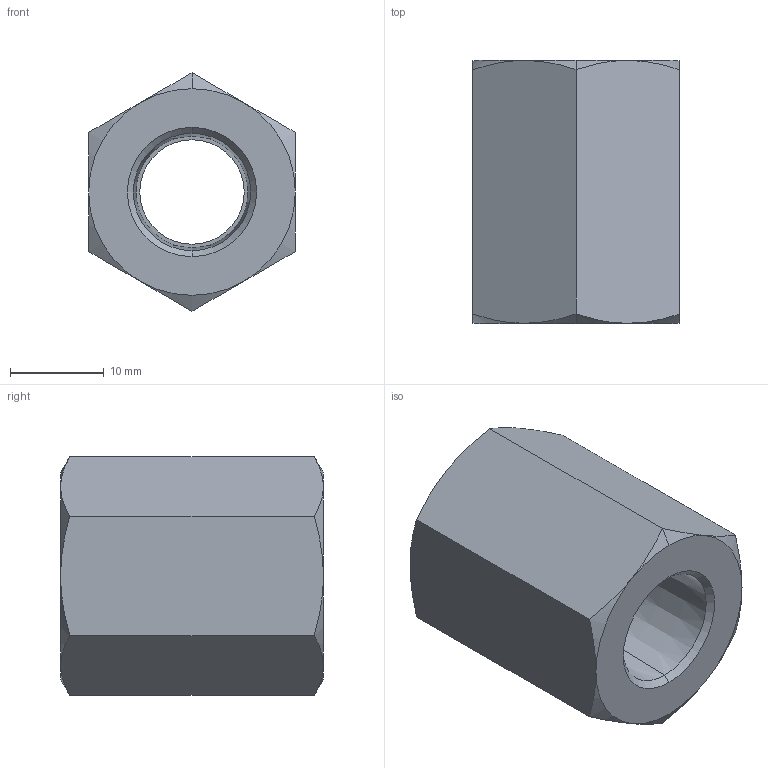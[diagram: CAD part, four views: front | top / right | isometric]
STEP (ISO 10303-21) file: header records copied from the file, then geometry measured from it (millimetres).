
FILE_DESCRIPTION (( 'STEP AP203' ), '1' );
FILE_NAME ('BXH02 N3N2 00.STEP', '2018-10-27T12:22:02', ( '' ), ( '' ), 'SwSTEP 2.0', 'SolidWorks 2013', '' );
FILE_SCHEMA (( 'CONFIG_CONTROL_DESIGN' ));
Length unit declared in the file: millimetre
Products named in the file (1): BXH02 N3N2 00
Bounding box: 22 x 28 x 25.4 mm (x, y, z)
Volume: 7527.5 mm3; surface area: 3855.6 mm2
Topology: 1 solids, 1 shells, 38 faces, 80 edges, 46 vertices
Faces by surface type: cone 24, plane 10, cylinder 4
Entity records: 1187 total; most frequent: CARTESIAN_POINT 317, DIRECTION 168, ORIENTED_EDGE 160, EDGE_CURVE 80, AXIS2_PLACEMENT_3D 73, VERTEX_POINT 46, EDGE_LOOP 42, FACE_OUTER_BOUND 38
